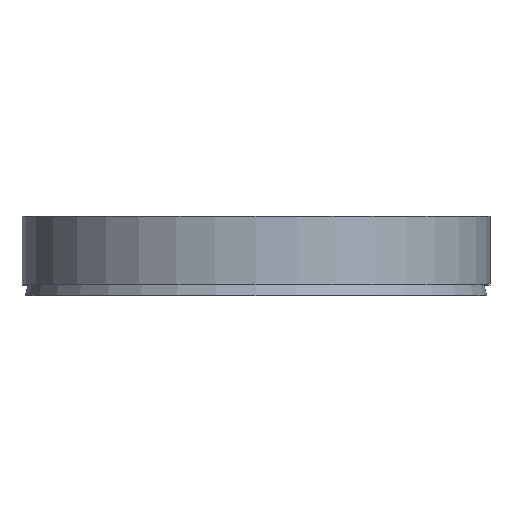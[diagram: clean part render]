
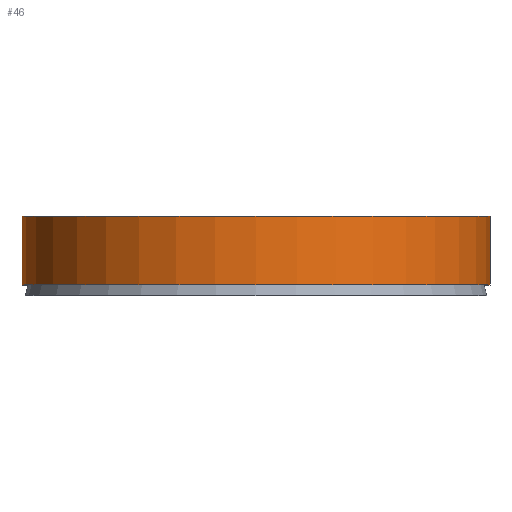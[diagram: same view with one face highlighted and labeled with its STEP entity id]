
A CAD part, top view. The second image highlights one B-rep face of the part: STEP entity #46.
In plain terms, the highlighted cylindrical face has radius 35.5 mm (diameter 71 mm), a full revolution.
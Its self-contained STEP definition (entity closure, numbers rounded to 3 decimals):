
#46 = ADVANCED_FACE( '', ( #93, #94 ), #95, .T. );
#93 = FACE_OUTER_BOUND( '', #132, .T. );
#94 = FACE_OUTER_BOUND( '', #133, .T. );
#95 = CYLINDRICAL_SURFACE( '', #134, 35.5 );
#132 = EDGE_LOOP( '', ( #179 ) );
#133 = EDGE_LOOP( '', ( #180 ) );
#134 = AXIS2_PLACEMENT_3D( '', #181, #182, #183 );
#179 = ORIENTED_EDGE( '', *, *, #189, .F. );
#180 = ORIENTED_EDGE( '', *, *, #198, .T. );
#181 = CARTESIAN_POINT( '', ( 0., -60., 0. ) );
#182 = DIRECTION( '', ( 0., 1., 0. ) );
#183 = DIRECTION( '', ( 0., 0., -1. ) );
#189 = EDGE_CURVE( '', #208, #208, #209, .T. );
#198 = EDGE_CURVE( '', #221, #221, #222, .T. );
#208 = VERTEX_POINT( '', #232 );
#209 = CIRCLE( '', #233, 35.5 );
#221 = VERTEX_POINT( '', #245 );
#222 = CIRCLE( '', #246, 35.5 );
#232 = CARTESIAN_POINT( '', ( 0., 1.6, -35.5 ) );
#233 = AXIS2_PLACEMENT_3D( '', #257, #258, #259 );
#245 = CARTESIAN_POINT( '', ( 0., 12., -35.5 ) );
#246 = AXIS2_PLACEMENT_3D( '', #269, #270, #271 );
#257 = CARTESIAN_POINT( '', ( 0., 1.6, 0. ) );
#258 = DIRECTION( '', ( 0., -1., 0. ) );
#259 = DIRECTION( '', ( 0., 0., -1. ) );
#269 = CARTESIAN_POINT( '', ( 0., 12., 0. ) );
#270 = DIRECTION( '', ( 0., -1., 0. ) );
#271 = DIRECTION( '', ( 0., 0., -1. ) );
